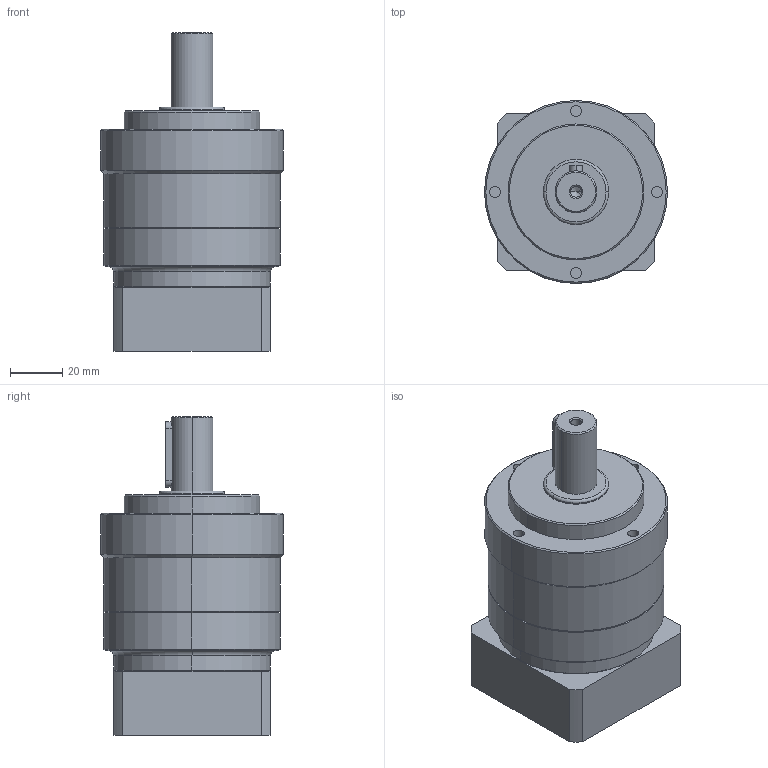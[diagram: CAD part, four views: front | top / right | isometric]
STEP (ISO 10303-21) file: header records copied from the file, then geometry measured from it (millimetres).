
FILE_DESCRIPTION (( 'STEP AP214' ), '1' );
FILE_NAME ('VRL-070-L1-S2-P1 14-50-70-M4.STEP', '2023-12-12T02:43:05', ( '微软用户' ), ( '微软中国' ), 'SwSTEP 2.0', 'SolidWorks 2018', '' );
FILE_SCHEMA (( 'AUTOMOTIVE_DESIGN' ));
Length unit declared in the file: millimetre
Products named in the file (1): VRL-070-L1-S2-P1 14-50-70-M4
Bounding box: 70 x 70 x 122 mm (x, y, z)
Volume: 293943.1 mm3; surface area: 38434.5 mm2
Topology: 1 solids, 1 shells, 99 faces, 213 edges, 133 vertices
Faces by surface type: cylinder 47, plane 30, cone 18, torus 4
Entity records: 2809 total; most frequent: DIRECTION 523, CARTESIAN_POINT 507, ORIENTED_EDGE 422, AXIS2_PLACEMENT_3D 215, EDGE_CURVE 211, VERTEX_POINT 133, EDGE_LOOP 118, CIRCLE 115
